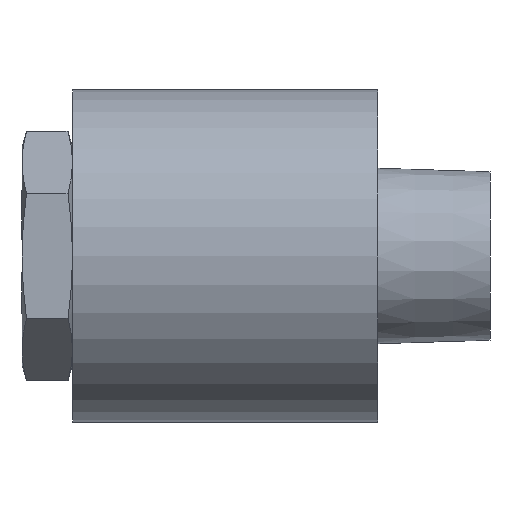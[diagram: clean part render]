
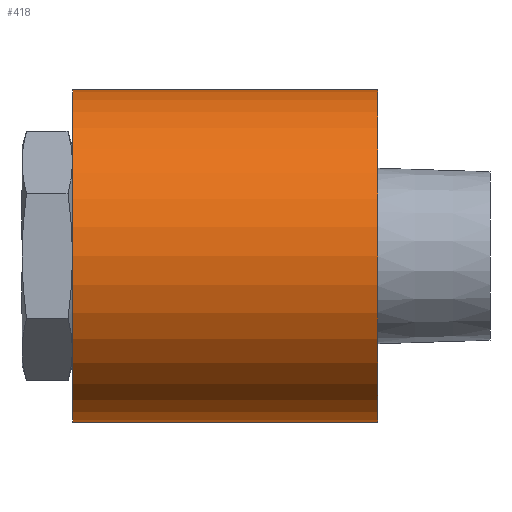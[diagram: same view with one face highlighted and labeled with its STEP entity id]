
A CAD part, left-side view. The second image highlights one B-rep face of the part: STEP entity #418.
In plain terms, the highlighted cylindrical face has radius 16.15 mm (diameter 32.3 mm), a full revolution.
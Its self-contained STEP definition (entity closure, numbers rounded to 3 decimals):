
#60=B_SPLINE_CURVE_WITH_KNOTS('',3,(#654,#655,#656,#657,#658,#659,#660,
#661,#662,#663,#664,#665,#666,#667,#668,#669,#670,#671,#672,#673,#674,#675,
#676),.UNSPECIFIED.,.T.,.F.,(1,1,1,1,1,1,1,1,1,1,1,1,1,1,1,1,1,1,1,1,1,
1,1,1,1,1,1),(-0.013,-0.009,-0.004,
0.,0.004,0.009,0.011,0.013,
0.015,0.018,0.022,0.026,
0.031,0.035,0.04,0.044,
0.048,0.051,0.053,0.055,
0.057,0.062,0.066,0.071,
0.075,0.079,0.082),.UNSPECIFIED.);
#85=ORIENTED_EDGE('',*,*,#197,.F.);
#86=ORIENTED_EDGE('',*,*,#198,.F.);
#87=ORIENTED_EDGE('',*,*,#199,.T.);
#197=EDGE_CURVE('',#253,#253,#291,.T.);
#198=EDGE_CURVE('',#254,#254,#60,.T.);
#199=EDGE_CURVE('',#255,#255,#292,.T.);
#253=VERTEX_POINT('',#653);
#254=VERTEX_POINT('',#677);
#255=VERTEX_POINT('',#679);
#291=CIRCLE('',#466,16.15);
#292=CIRCLE('',#467,16.15);
#316=EDGE_LOOP('',(#85));
#317=EDGE_LOOP('',(#86));
#318=EDGE_LOOP('',(#87));
#364=FACE_BOUND('',#316,.T.);
#365=FACE_BOUND('',#317,.T.);
#366=FACE_BOUND('',#318,.T.);
#412=CYLINDRICAL_SURFACE('',#465,16.15);
#418=ADVANCED_FACE('',(#364,#365,#366),#412,.T.);
#465=AXIS2_PLACEMENT_3D('',#651,#526,#527);
#466=AXIS2_PLACEMENT_3D('',#652,#528,#529);
#467=AXIS2_PLACEMENT_3D('',#678,#530,#531);
#526=DIRECTION('',(0.,-1.,0.));
#527=DIRECTION('',(1.,0.,0.));
#528=DIRECTION('',(0.,-1.,0.));
#529=DIRECTION('',(1.,0.,0.));
#530=DIRECTION('',(0.,-1.,0.));
#531=DIRECTION('',(1.,0.,0.));
#651=CARTESIAN_POINT('',(0.,-6.35,0.));
#652=CARTESIAN_POINT('',(0.,5.8,0.));
#653=CARTESIAN_POINT('',(16.15,5.8,0.));
#654=CARTESIAN_POINT('',(15.716,30.27,-4.439));
#655=CARTESIAN_POINT('',(16.366,31.214,0.005));
#656=CARTESIAN_POINT('',(15.72,30.275,4.42));
#657=CARTESIAN_POINT('',(14.462,28.269,7.334));
#658=CARTESIAN_POINT('',(13.37,26.125,9.094));
#659=CARTESIAN_POINT('',(12.628,24.307,10.087));
#660=CARTESIAN_POINT('',(12.063,22.238,10.744));
#661=CARTESIAN_POINT('',(11.769,19.274,11.055));
#662=CARTESIAN_POINT('',(12.512,15.615,10.283));
#663=CARTESIAN_POINT('',(14.199,12.162,7.937));
#664=CARTESIAN_POINT('',(15.709,9.738,4.459));
#665=CARTESIAN_POINT('',(16.365,8.788,0.027));
#666=CARTESIAN_POINT('',(15.729,9.711,-4.396));
#667=CARTESIAN_POINT('',(14.211,12.135,-7.919));
#668=CARTESIAN_POINT('',(12.811,15.019,-9.875));
#669=CARTESIAN_POINT('',(12.062,17.768,-10.744));
#670=CARTESIAN_POINT('',(11.846,19.986,-10.977));
#671=CARTESIAN_POINT('',(12.058,22.213,-10.749));
#672=CARTESIAN_POINT('',(12.807,24.974,-9.88));
#673=CARTESIAN_POINT('',(14.207,27.856,-7.921));
#674=CARTESIAN_POINT('',(15.716,30.27,-4.439));
#675=CARTESIAN_POINT('',(16.366,31.214,0.005));
#676=CARTESIAN_POINT('',(15.72,30.275,4.42));
#677=CARTESIAN_POINT('',(16.15,30.9,0.));
#678=CARTESIAN_POINT('',(0.,35.4,0.));
#679=CARTESIAN_POINT('',(16.15,35.4,0.));
